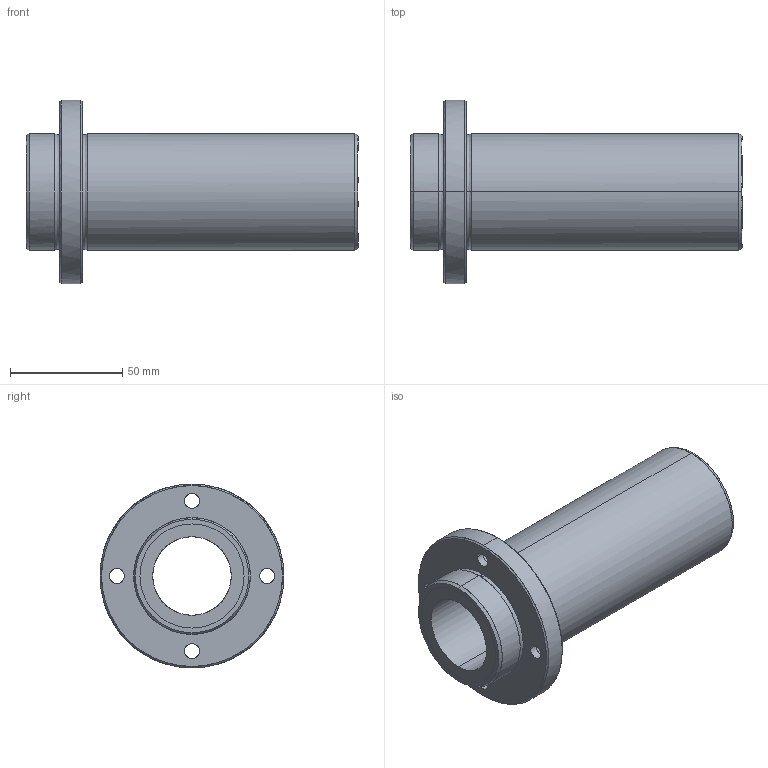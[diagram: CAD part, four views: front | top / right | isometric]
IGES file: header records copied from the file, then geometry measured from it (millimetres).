
Global section: file name: No Iges File Name specified; native system: AutoDesk Inventor R11.0; preprocessor: AutoDesk Inventor Iges Exporter R11.0; author: No Author specified; organization: No Organization specified; date: 20170921.142711; units: millimetre
Bounding box: 148 x 82 x 82 mm (x, y, z)
Surface area: 50687.5 mm2 (no closed solid volume)
Topology: 0 solids, 0 shells, 50 faces, 352 edges, 352 vertices
Faces by surface type: bspline 50
